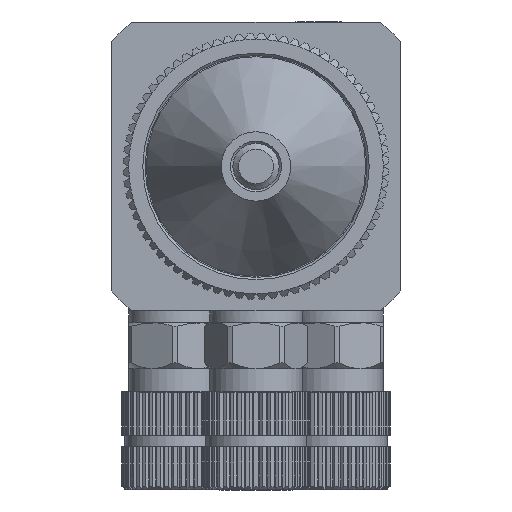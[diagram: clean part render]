
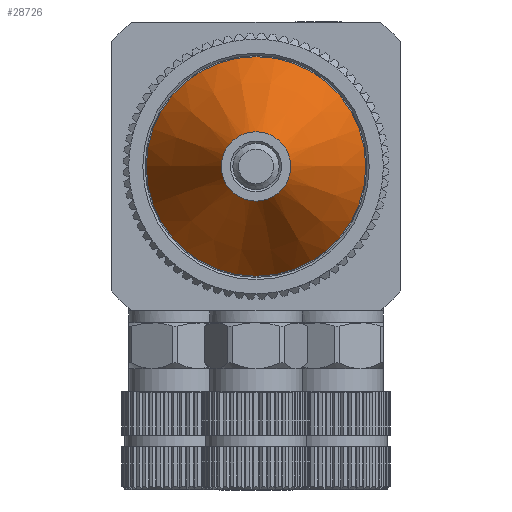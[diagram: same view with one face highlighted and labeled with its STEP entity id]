
A CAD part, front view. The second image highlights one B-rep face of the part: STEP entity #28726.
In plain terms, the highlighted conical face has half-angle 30 degrees and reference radius 9.5 mm.
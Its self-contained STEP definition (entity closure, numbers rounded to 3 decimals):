
#1526 = CIRCLE ( 'NONE', #46072, 9.5 ) ;
#7406 = CIRCLE ( 'NONE', #18582, 3. ) ;
#8018 = EDGE_CURVE ( 'NONE', #43174, #43174, #1526, .T. ) ;
#8121 = FACE_BOUND ( 'NONE', #35179, .T. ) ;
#12342 = CARTESIAN_POINT ( 'NONE',  ( -3., -17.5, 0. ) ) ;
#12900 = CARTESIAN_POINT ( 'NONE',  ( 0., -6.242, 0. ) ) ;
#17858 = EDGE_LOOP ( 'NONE', ( #27351 ) ) ;
#18582 = AXIS2_PLACEMENT_3D ( 'NONE', #48558, #38762, #58062 ) ;
#18662 = EDGE_CURVE ( 'NONE', #21894, #21894, #7406, .T. ) ;
#21204 = DIRECTION ( 'NONE',  ( 0., 0., 1. ) ) ;
#21894 = VERTEX_POINT ( 'NONE', #12342 ) ;
#23544 = CONICAL_SURFACE ( 'NONE', #58930, 9.5, 0.524 ) ;
#25965 = DIRECTION ( 'NONE',  ( 0., -1., 0. ) ) ;
#27171 = DIRECTION ( 'NONE',  ( 0., 1., 0. ) ) ;
#27351 = ORIENTED_EDGE ( 'NONE', *, *, #8018, .T. ) ;
#27802 = FACE_OUTER_BOUND ( 'NONE', #17858, .T. ) ;
#28726 = ADVANCED_FACE ( 'NONE', ( #8121, #27802 ), #23544, .T. ) ;
#35179 = EDGE_LOOP ( 'NONE', ( #52520 ) ) ;
#38762 = DIRECTION ( 'NONE',  ( 0., -1., 0. ) ) ;
#42525 = CARTESIAN_POINT ( 'NONE',  ( 0., -6.242, 9.5 ) ) ;
#43174 = VERTEX_POINT ( 'NONE', #42525 ) ;
#46072 = AXIS2_PLACEMENT_3D ( 'NONE', #50636, #25965, #21204 ) ;
#46496 = DIRECTION ( 'NONE',  ( -1., 0., 0. ) ) ;
#48558 = CARTESIAN_POINT ( 'NONE',  ( 0., -17.5, 0. ) ) ;
#50636 = CARTESIAN_POINT ( 'NONE',  ( 0., -6.242, 0. ) ) ;
#52520 = ORIENTED_EDGE ( 'NONE', *, *, #18662, .F. ) ;
#58062 = DIRECTION ( 'NONE',  ( -1., 0., 0. ) ) ;
#58930 = AXIS2_PLACEMENT_3D ( 'NONE', #12900, #27171, #46496 ) ;
